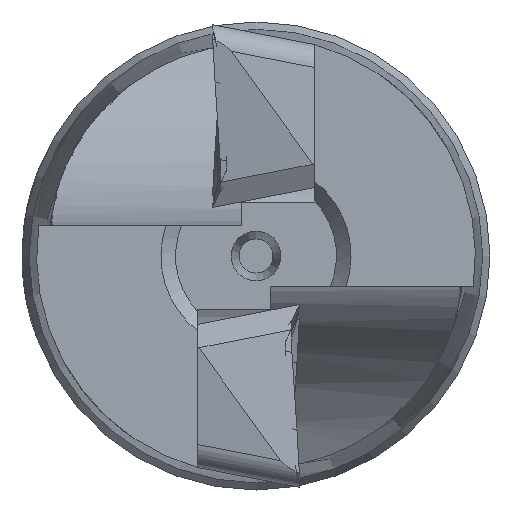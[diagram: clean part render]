
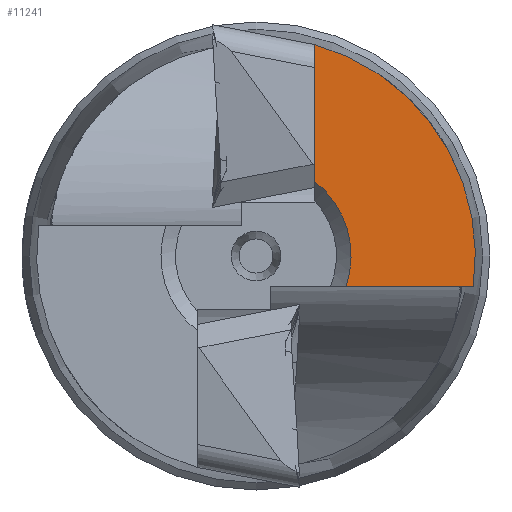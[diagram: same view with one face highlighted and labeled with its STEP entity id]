
A CAD part, left-side view. The second image highlights one B-rep face of the part: STEP entity #11241.
In plain terms, the highlighted planar face has unit normal (-1, 0, 0).
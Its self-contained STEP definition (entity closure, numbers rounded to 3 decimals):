
#1075=PLANE('',#11997);
#1363=FACE_OUTER_BOUND('',#2013,.T.);
#2013=EDGE_LOOP('',(#7759,#7760,#7761,#7762));
#2711=LINE('',#15057,#3568);
#2728=LINE('',#15135,#3585);
#3568=VECTOR('',#12727,10.);
#3585=VECTOR('',#12776,10.);
#4432=CIRCLE('',#11990,3.25);
#4435=CIRCLE('',#11998,7.5);
#4735=VERTEX_POINT('',#15052);
#4736=VERTEX_POINT('',#15056);
#4756=VERTEX_POINT('',#15112);
#4763=VERTEX_POINT('',#15133);
#5920=EDGE_CURVE('',#4736,#4735,#2711,.T.);
#5944=EDGE_CURVE('',#4756,#4735,#4432,.T.);
#5953=EDGE_CURVE('',#4756,#4763,#2728,.T.);
#5961=EDGE_CURVE('',#4763,#4736,#4435,.T.);
#7759=ORIENTED_EDGE('',*,*,#5944,.F.);
#7760=ORIENTED_EDGE('',*,*,#5953,.T.);
#7761=ORIENTED_EDGE('',*,*,#5961,.T.);
#7762=ORIENTED_EDGE('',*,*,#5920,.T.);
#11241=ADVANCED_FACE('',(#1363),#1075,.T.);
#11990=AXIS2_PLACEMENT_3D('',#15116,#12764,#12765);
#11997=AXIS2_PLACEMENT_3D('',#15149,#12791,#12792);
#11998=AXIS2_PLACEMENT_3D('',#15150,#12793,#12794);
#12727=DIRECTION('',(0.,0.,-1.));
#12764=DIRECTION('center_axis',(-1.,0.,0.));
#12765=DIRECTION('ref_axis',(0.,0.,1.));
#12776=DIRECTION('',(0.,-1.,0.));
#12791=DIRECTION('center_axis',(-1.,0.,0.));
#12792=DIRECTION('ref_axis',(0.,0.,1.));
#12793=DIRECTION('center_axis',(-1.,0.,0.));
#12794=DIRECTION('ref_axis',(0.,0.,1.));
#15052=CARTESIAN_POINT('',(-119.35,-2.,2.562));
#15056=CARTESIAN_POINT('',(-119.35,-2.,7.228));
#15057=CARTESIAN_POINT('',(-119.35,-2.,2.131));
#15112=CARTESIAN_POINT('',(-119.35,-3.079,-1.04));
#15116=CARTESIAN_POINT('Origin',(-119.35,0.,0.));
#15133=CARTESIAN_POINT('',(-119.35,-7.428,-1.04));
#15135=CARTESIAN_POINT('',(-119.35,-4.,-1.04));
#15149=CARTESIAN_POINT('Origin',(-119.35,0.,0.));
#15150=CARTESIAN_POINT('Origin',(-119.35,0.,0.));
